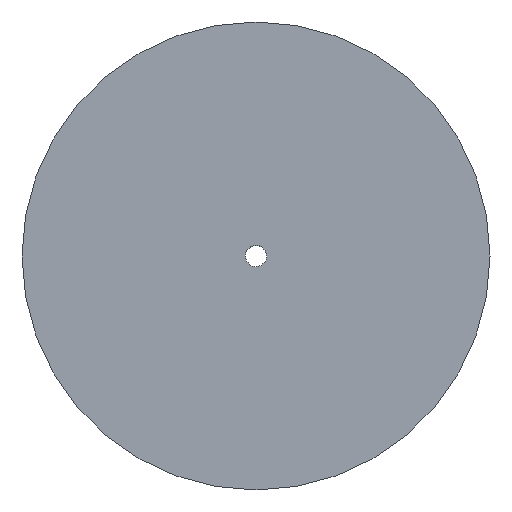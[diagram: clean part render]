
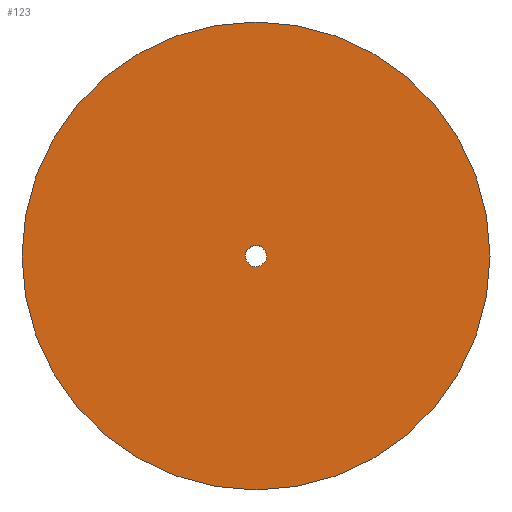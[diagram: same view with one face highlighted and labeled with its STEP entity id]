
A CAD part, top view. The second image highlights one B-rep face of the part: STEP entity #123.
In plain terms, the highlighted planar face has unit normal (0, 0, 1).
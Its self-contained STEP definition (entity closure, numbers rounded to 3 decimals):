
#62=CARTESIAN_POINT('Vertex',(-2.852,1.558,0.)) ;
#76=CARTESIAN_POINT('Vertex',(2.852,-1.558,0.)) ;
#79=CARTESIAN_POINT('Axis2P3D Location',(0.,0.,0.)) ;
#91=CARTESIAN_POINT('Axis2P3D Location',(0.,0.,0.)) ;
#96=CARTESIAN_POINT('Axis2P3D Location',(0.,0.,0.)) ;
#100=CARTESIAN_POINT('Vertex',(72.,0.,0.)) ;
#102=CARTESIAN_POINT('Vertex',(-72.,0.,0.)) ;
#105=CARTESIAN_POINT('Axis2P3D Location',(0.,0.,0.)) ;
#114=CARTESIAN_POINT('Axis2P3D Location',(0.,0.,0.)) ;
#80=DIRECTION('Axis2P3D Direction',(0.,-0.,-1.)) ;
#92=DIRECTION('Axis2P3D Direction',(0.,0.,1.)) ;
#93=DIRECTION('Axis2P3D XDirection',(1.,0.,0.)) ;
#97=DIRECTION('Axis2P3D Direction',(0.,0.,1.)) ;
#106=DIRECTION('Axis2P3D Direction',(0.,0.,1.)) ;
#115=DIRECTION('Axis2P3D Direction',(0.,0.,1.)) ;
#81=AXIS2_PLACEMENT_3D('Circle Axis2P3D',#79,#80,$) ;
#94=AXIS2_PLACEMENT_3D('Plane Axis2P3D',#91,#92,#93) ;
#98=AXIS2_PLACEMENT_3D('Circle Axis2P3D',#96,#97,$) ;
#107=AXIS2_PLACEMENT_3D('Circle Axis2P3D',#105,#106,$) ;
#116=AXIS2_PLACEMENT_3D('Circle Axis2P3D',#114,#115,$) ;
#111=ORIENTED_EDGE('',*,*,#104,.F.) ;
#112=ORIENTED_EDGE('',*,*,#109,.F.) ;
#120=ORIENTED_EDGE('',*,*,#118,.F.) ;
#121=ORIENTED_EDGE('',*,*,#83,.F.) ;
#122=FACE_BOUND('',#119,.T.) ;
#123=ADVANCED_FACE('PartBody',(#113,#122),#95,.T.) ;
#82=CIRCLE('generated circle',#81,3.25) ;
#99=CIRCLE('generated circle',#98,72.) ;
#108=CIRCLE('generated circle',#107,72.) ;
#117=CIRCLE('generated circle',#116,3.25) ;
#83=EDGE_CURVE('',#77,#63,#82,.F.) ;
#104=EDGE_CURVE('',#101,#103,#99,.F.) ;
#109=EDGE_CURVE('',#103,#101,#108,.F.) ;
#118=EDGE_CURVE('',#63,#77,#117,.T.) ;
#110=EDGE_LOOP('',(#111,#112)) ;
#119=EDGE_LOOP('',(#120,#121)) ;
#113=FACE_OUTER_BOUND('',#110,.T.) ;
#95=PLANE('',#94) ;
#63=VERTEX_POINT('',#62) ;
#77=VERTEX_POINT('',#76) ;
#101=VERTEX_POINT('',#100) ;
#103=VERTEX_POINT('',#102) ;
